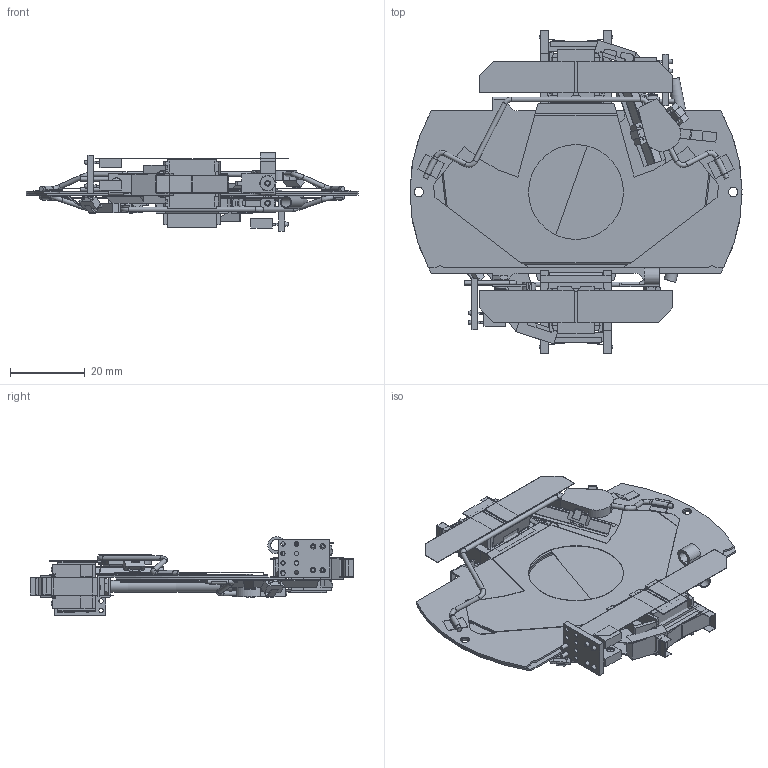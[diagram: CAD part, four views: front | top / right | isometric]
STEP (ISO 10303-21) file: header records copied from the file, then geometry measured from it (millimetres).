
FILE_DESCRIPTION (( 'STEP AP214' ), '1' );
FILE_NAME ('XRS25_3D_UNH.STEP', '2024-02-26T21:09:14', ( '' ), ( '' ), 'SwSTEP 2.0', 'SolidWorks 2022', '' );
FILE_SCHEMA (( 'AUTOMOTIVE_DESIGN' ));
Length unit declared in the file: inch
Products named in the file (1): XRS25_3D_UNH
Bounding box: 88.89 x 86.56 x 21.03 mm (x, y, z)
Volume: 15849.8 mm3; surface area: 43663.9 mm2
Topology: 78 solids, 78 shells, 1929 faces, 4461 edges, 2712 vertices
Faces by surface type: plane 1363, cylinder 367, cone 107, torus 49, bspline 40, sphere 3
Full cylindrical faces by diameter (mm): 0.508 x28, 1.092 x4, 1.168 x16, 1.191 x3, 1.27 x14, 1.524 x31, 1.575 x4, 1.727 x3, 1.981 x4, 2.438 x2, 2.489 x4, 2.946 x3, 3.175 x3, 25.4 x4
Entity records: 79459 total; most frequent: CARTESIAN_POINT 10958, DIRECTION 8700, ORIENTED_EDGE 8392, EDGE_CURVE 4196, VECTOR 3104, LINE 3104, AXIS2_PLACEMENT_3D 2798, VERTEX_POINT 2692
